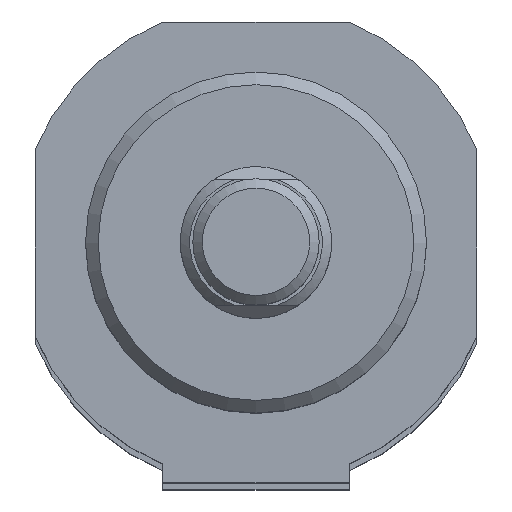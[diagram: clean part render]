
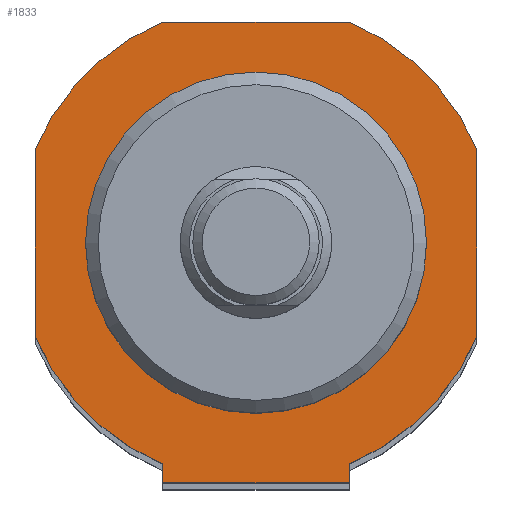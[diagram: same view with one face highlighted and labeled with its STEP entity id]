
A CAD part, top view. The second image highlights one B-rep face of the part: STEP entity #1833.
In plain terms, the highlighted planar face has unit normal (0, 0, 1).
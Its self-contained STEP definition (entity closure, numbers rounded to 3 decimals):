
#898=CARTESIAN_POINT('',(7.399,-19.0,349.));
#899=VERTEX_POINT('',#898);
#900=CARTESIAN_POINT('',(-7.399,-19.0,349.));
#901=VERTEX_POINT('',#900);
#902=CARTESIAN_POINT('',(7.399,-19.0,349.));
#903=DIRECTION('',(-1.0,0.0,0.0));
#904=VECTOR('',#903,14.799);
#905=LINE('',#902,#904);
#906=EDGE_CURVE('',#899,#901,#905,.T.);
#1054=CARTESIAN_POINT('',(-7.399,-17.5,349.));
#1055=VERTEX_POINT('',#1054);
#1069=CARTESIAN_POINT('',(-7.399,-17.5,349.));
#1070=DIRECTION('',(0.0,-1.0,0.0));
#1071=VECTOR('',#1070,1.5);
#1072=LINE('',#1069,#1071);
#1073=EDGE_CURVE('',#1055,#901,#1072,.T.);
#1085=CARTESIAN_POINT('',(7.399,-17.5,349.));
#1086=VERTEX_POINT('',#1085);
#1093=CARTESIAN_POINT('',(7.399,-17.5,349.));
#1094=DIRECTION('',(0.0,-1.0,0.0));
#1095=VECTOR('',#1094,1.5);
#1096=LINE('',#1093,#1095);
#1097=EDGE_CURVE('',#1086,#899,#1096,.T.);
#1561=CARTESIAN_POINT('',(13.5,0.,349.));
#1562=VERTEX_POINT('',#1561);
#1563=CARTESIAN_POINT('',(0.,0.,349.));
#1564=DIRECTION('',(0.0,0.0,-1.0));
#1565=DIRECTION('',(-1.0,0.0,0.0));
#1566=AXIS2_PLACEMENT_3D('',#1563,#1564,#1565);
#1567=CIRCLE('',#1566,13.5);
#1568=EDGE_CURVE('',#1562,#1562,#1567,.T.);
#1653=CARTESIAN_POINT('',(-7.399,17.5,349.));
#1654=VERTEX_POINT('',#1653);
#1655=CARTESIAN_POINT('',(7.399,17.5,349.));
#1656=VERTEX_POINT('',#1655);
#1657=CARTESIAN_POINT('',(-7.399,17.5,349.));
#1658=DIRECTION('',(1.0,0.0,0.0));
#1659=VECTOR('',#1658,14.799);
#1660=LINE('',#1657,#1659);
#1661=EDGE_CURVE('',#1654,#1656,#1660,.T.);
#1684=CARTESIAN_POINT('',(17.5,7.399,349.));
#1685=VERTEX_POINT('',#1684);
#1686=CARTESIAN_POINT('',(0.,0.,349.0));
#1687=DIRECTION('',(0.,0.,-1.0));
#1688=DIRECTION('',(0.921,0.389,0.));
#1689=AXIS2_PLACEMENT_3D('',#1686,#1687,#1688);
#1690=CIRCLE('',#1689,19.0);
#1691=EDGE_CURVE('',#1656,#1685,#1690,.T.);
#1709=CARTESIAN_POINT('',(17.5,-7.399,349.));
#1710=VERTEX_POINT('',#1709);
#1711=CARTESIAN_POINT('',(17.5,7.399,349.));
#1712=DIRECTION('',(0.0,-1.0,0.0));
#1713=VECTOR('',#1712,14.799);
#1714=LINE('',#1711,#1713);
#1715=EDGE_CURVE('',#1685,#1710,#1714,.T.);
#1733=CARTESIAN_POINT('',(0.,0.,349.0));
#1734=DIRECTION('',(0.,0.,-1.));
#1735=DIRECTION('',(0.389,-0.921,0.));
#1736=AXIS2_PLACEMENT_3D('',#1733,#1734,#1735);
#1737=CIRCLE('',#1736,19.0);
#1738=EDGE_CURVE('',#1710,#1086,#1737,.T.);
#1751=CARTESIAN_POINT('',(-17.5,-7.399,349.));
#1752=VERTEX_POINT('',#1751);
#1753=CARTESIAN_POINT('',(0.,0.,349.0));
#1754=DIRECTION('',(0.,0.,-1.0));
#1755=DIRECTION('',(-0.921,-0.389,0.));
#1756=AXIS2_PLACEMENT_3D('',#1753,#1754,#1755);
#1757=CIRCLE('',#1756,19.0);
#1758=EDGE_CURVE('',#1055,#1752,#1757,.T.);
#1776=CARTESIAN_POINT('',(-17.5,7.399,349.));
#1777=VERTEX_POINT('',#1776);
#1778=CARTESIAN_POINT('',(-17.5,-7.399,349.));
#1779=DIRECTION('',(0.0,1.0,0.0));
#1780=VECTOR('',#1779,14.799);
#1781=LINE('',#1778,#1780);
#1782=EDGE_CURVE('',#1752,#1777,#1781,.T.);
#1800=CARTESIAN_POINT('',(0.,0.,349.0));
#1801=DIRECTION('',(0.,0.,-1.));
#1802=DIRECTION('',(-0.389,0.921,0.));
#1803=AXIS2_PLACEMENT_3D('',#1800,#1801,#1802);
#1804=CIRCLE('',#1803,19.0);
#1805=EDGE_CURVE('',#1777,#1654,#1804,.T.);
#1813=CARTESIAN_POINT('',(0.,0.,349.));
#1814=DIRECTION('',(0.0,0.0,1.0));
#1815=DIRECTION('',(1.0,0.0,0.0));
#1816=AXIS2_PLACEMENT_3D('',#1813,#1814,#1815);
#1817=PLANE('',#1816);
#1818=ORIENTED_EDGE('',*,*,#1661,.F.);
#1819=ORIENTED_EDGE('',*,*,#1805,.F.);
#1820=ORIENTED_EDGE('',*,*,#1782,.F.);
#1821=ORIENTED_EDGE('',*,*,#1758,.F.);
#1822=ORIENTED_EDGE('',*,*,#1073,.T.);
#1823=ORIENTED_EDGE('',*,*,#906,.F.);
#1824=ORIENTED_EDGE('',*,*,#1097,.F.);
#1825=ORIENTED_EDGE('',*,*,#1738,.F.);
#1826=ORIENTED_EDGE('',*,*,#1715,.F.);
#1827=ORIENTED_EDGE('',*,*,#1691,.F.);
#1828=EDGE_LOOP('',(#1818,#1819,#1820,#1821,#1822,#1823,#1824,#1825,#1826,#1827));
#1829=FACE_OUTER_BOUND('',#1828,.T.);
#1830=ORIENTED_EDGE('',*,*,#1568,.T.);
#1831=EDGE_LOOP('',(#1830));
#1832=FACE_BOUND('',#1831,.T.);
#1833=ADVANCED_FACE('',(#1829,#1832),#1817,.T.);
